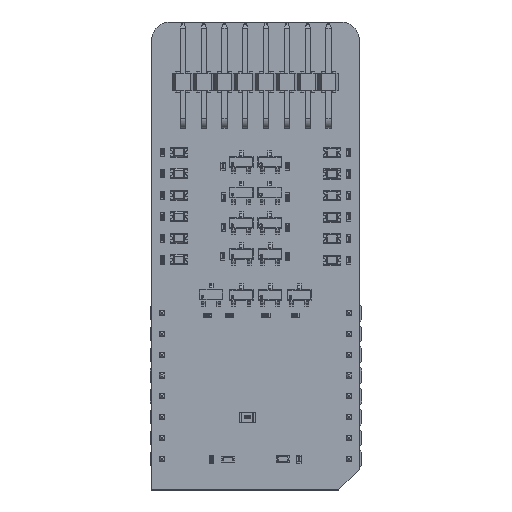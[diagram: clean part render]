
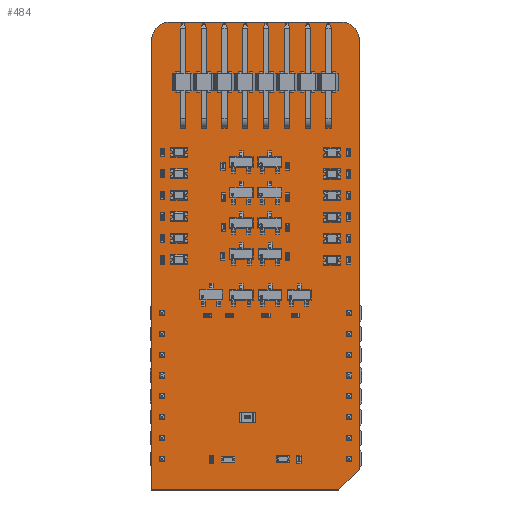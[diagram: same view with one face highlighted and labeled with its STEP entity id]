
A CAD part, top view. The second image highlights one B-rep face of the part: STEP entity #484.
In plain terms, the highlighted planar face has unit normal (0, 0, 1).
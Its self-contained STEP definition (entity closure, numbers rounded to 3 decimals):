
#255 = VERTEX_POINT('',#256);
#256 = CARTESIAN_POINT('',(-1.27,-3.81,0.));
#262 = EDGE_CURVE('',#255,#263,#265,.T.);
#263 = VERTEX_POINT('',#264);
#264 = CARTESIAN_POINT('',(-1.27,51.054,0.));
#265 = LINE('',#266,#267);
#266 = CARTESIAN_POINT('',(-1.27,-3.81,0.));
#267 = VECTOR('',#268,1.);
#268 = DIRECTION('',(0.,1.,0.));
#293 = EDGE_CURVE('',#263,#294,#296,.T.);
#294 = VERTEX_POINT('',#295);
#295 = CARTESIAN_POINT('',(1.016,53.34,0.));
#296 = CIRCLE('',#297,2.288);
#297 = AXIS2_PLACEMENT_3D('',#298,#299,#300);
#298 = CARTESIAN_POINT('',(1.018,51.052,0.));
#299 = DIRECTION('',(0.,0.,-1.));
#300 = DIRECTION('',(-1.,0.001,0.));
#326 = EDGE_CURVE('',#294,#327,#329,.T.);
#327 = VERTEX_POINT('',#328);
#328 = CARTESIAN_POINT('',(21.844,53.34,0.));
#329 = LINE('',#330,#331);
#330 = CARTESIAN_POINT('',(1.016,53.34,0.));
#331 = VECTOR('',#332,1.);
#332 = DIRECTION('',(1.,0.,0.));
#357 = EDGE_CURVE('',#327,#358,#360,.T.);
#358 = VERTEX_POINT('',#359);
#359 = CARTESIAN_POINT('',(24.13,51.054,0.));
#360 = CIRCLE('',#361,2.288);
#361 = AXIS2_PLACEMENT_3D('',#362,#363,#364);
#362 = CARTESIAN_POINT('',(21.842,51.052,0.));
#363 = DIRECTION('',(0.,0.,-1.));
#364 = DIRECTION('',(0.001,1.,0.));
#390 = EDGE_CURVE('',#358,#391,#393,.T.);
#391 = VERTEX_POINT('',#392);
#392 = CARTESIAN_POINT('',(24.13,-1.27,0.));
#393 = LINE('',#394,#395);
#394 = CARTESIAN_POINT('',(24.13,51.054,0.));
#395 = VECTOR('',#396,1.);
#396 = DIRECTION('',(0.,-1.,0.));
#421 = EDGE_CURVE('',#391,#422,#424,.T.);
#422 = VERTEX_POINT('',#423);
#423 = CARTESIAN_POINT('',(21.59,-3.81,0.));
#424 = LINE('',#425,#426);
#425 = CARTESIAN_POINT('',(24.13,-1.27,0.));
#426 = VECTOR('',#427,1.);
#427 = DIRECTION('',(-0.707,-0.707,0.));
#452 = EDGE_CURVE('',#422,#255,#453,.T.);
#453 = LINE('',#454,#455);
#454 = CARTESIAN_POINT('',(21.59,-3.81,0.));
#455 = VECTOR('',#456,1.);
#456 = DIRECTION('',(-1.,0.,0.));
#484 = ADVANCED_FACE('',(#485),#494,.T.);
#485 = FACE_BOUND('',#486,.F.);
#486 = EDGE_LOOP('',(#487,#488,#489,#490,#491,#492,#493));
#487 = ORIENTED_EDGE('',*,*,#262,.T.);
#488 = ORIENTED_EDGE('',*,*,#293,.T.);
#489 = ORIENTED_EDGE('',*,*,#326,.T.);
#490 = ORIENTED_EDGE('',*,*,#357,.T.);
#491 = ORIENTED_EDGE('',*,*,#390,.T.);
#492 = ORIENTED_EDGE('',*,*,#421,.T.);
#493 = ORIENTED_EDGE('',*,*,#452,.T.);
#494 = PLANE('',#495);
#495 = AXIS2_PLACEMENT_3D('',#496,#497,#498);
#496 = CARTESIAN_POINT('',(-1.27,-3.81,0.));
#497 = DIRECTION('',(0.,0.,1.));
#498 = DIRECTION('',(1.,0.,0.));
